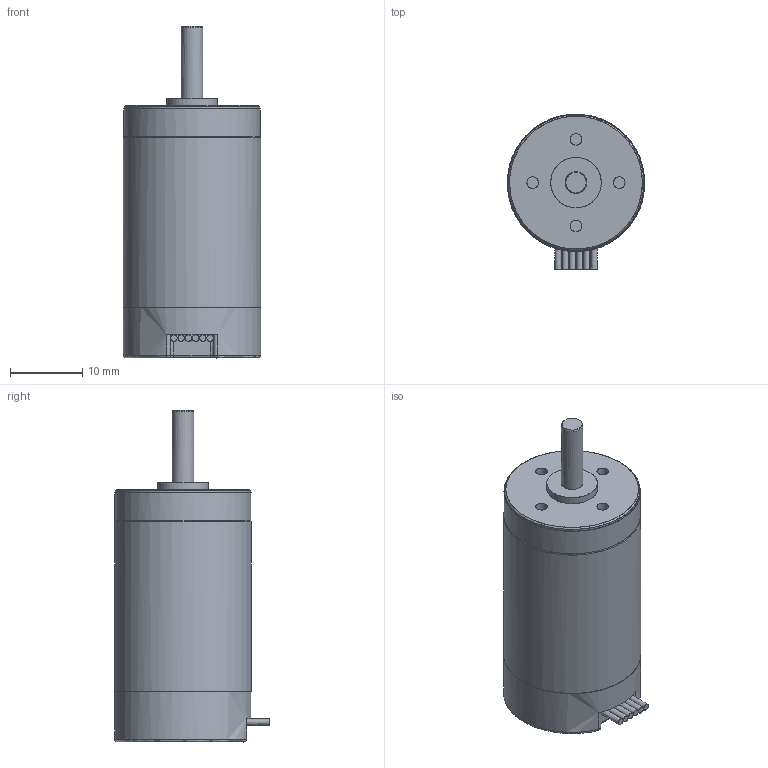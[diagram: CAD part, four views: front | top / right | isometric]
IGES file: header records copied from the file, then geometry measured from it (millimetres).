
Global section: file name: C:\Users\luec\Desktop\3Daten 1935\1935BRC.igs; native system: Unigraphics Version ; preprocessor: SIEMENS PLM Software NX 10.0; author: DR. FRITZ FAULHABER GmbH & Co. KG; organization: DR. FRITZ FAULHABER GmbH & Co. KG; date: 20161024.151118; units: millimetre
Bounding box: 19 x 21.5 x 46 mm (x, y, z)
Surface area: 2885.9 mm2 (no closed solid volume)
Topology: 0 solids, 0 shells, 63 faces, 485 edges, 479 vertices
Faces by surface type: bspline 63
